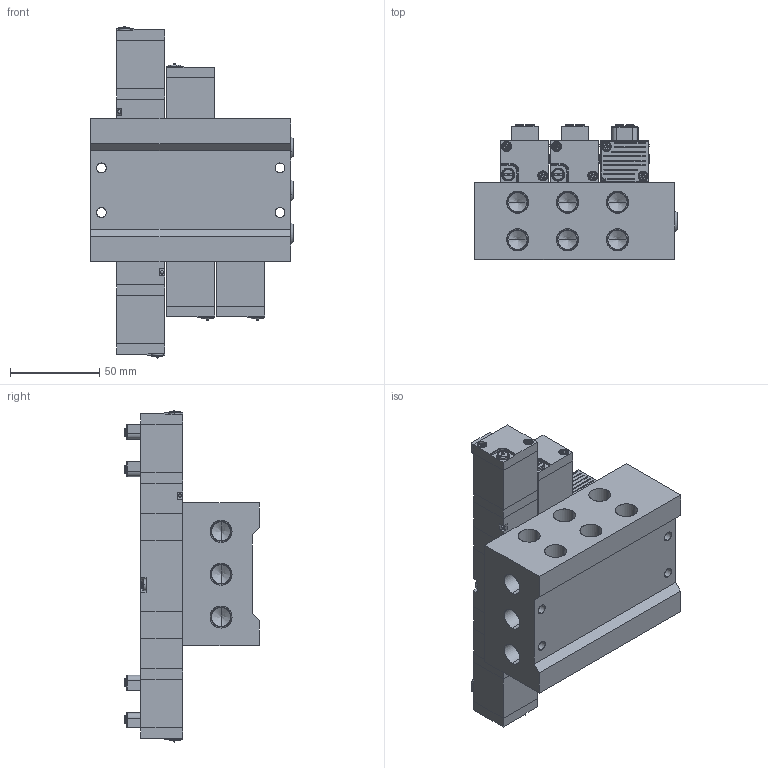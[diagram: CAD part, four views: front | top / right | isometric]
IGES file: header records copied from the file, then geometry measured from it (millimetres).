
Start section: SolidWorks IGES file using analytic representation for surfaces
Global section: file name: D:\Custom\3D繪製\PC\PC06\MFS#-PC06-02-L.IGS,1; native system: 5HSolidWorks 2014; preprocessor: SolidWorks 2014; author: Chieh_Lu; date: 150820.101240; units: millimetre
Bounding box: 113.51 x 75.5 x 185.95 mm (x, y, z)
Surface area: 127336.7 mm2 (no closed solid volume)
Topology: 0 solids, 0 shells, 1602 faces, 15529 edges, 15408 vertices
Faces by surface type: bspline 989, revolution 613
